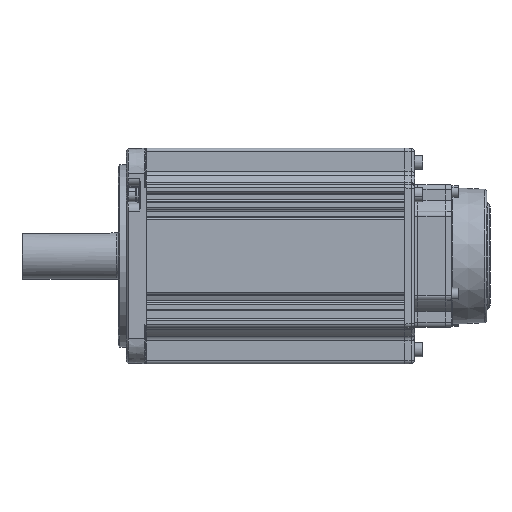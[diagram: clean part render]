
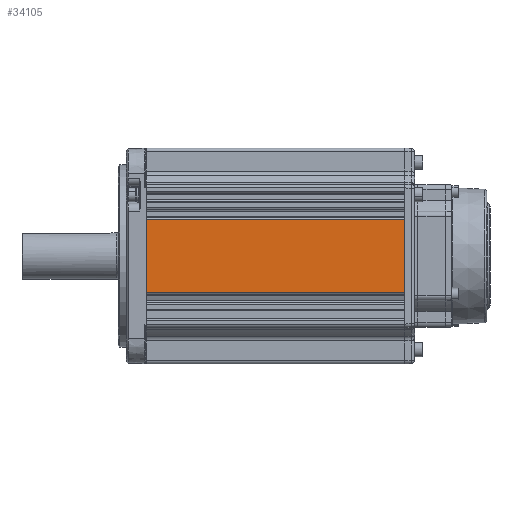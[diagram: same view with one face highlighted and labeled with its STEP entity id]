
A CAD part, front view. The second image highlights one B-rep face of the part: STEP entity #34105.
In plain terms, the highlighted planar face has unit normal (0, -1, 0).
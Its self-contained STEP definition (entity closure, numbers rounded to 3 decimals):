
#212 = ORIENTED_EDGE ( 'NONE', *, *, #33060, .F. ) ;
#1883 = VERTEX_POINT ( 'NONE', #55064 ) ;
#7166 = CARTESIAN_POINT ( 'NONE',  ( 77.9, -65., -22. ) ) ;
#7666 = AXIS2_PLACEMENT_3D ( 'NONE', #28517, #27931, #14125 ) ;
#10029 = PLANE ( 'NONE',  #7666 ) ;
#11559 = VECTOR ( 'NONE', #51038, 1000. ) ;
#14125 = DIRECTION ( 'NONE',  ( 0., 0., 1. ) ) ;
#14227 = VECTOR ( 'NONE', #55484, 1000. ) ;
#14438 = FACE_OUTER_BOUND ( 'NONE', #36784, .T. ) ;
#15333 = DIRECTION ( 'NONE',  ( -1., 0., 0. ) ) ;
#15586 = CARTESIAN_POINT ( 'NONE',  ( -77.9, -65., -43. ) ) ;
#18531 = CARTESIAN_POINT ( 'NONE',  ( -77.9, -65., 22. ) ) ;
#19382 = LINE ( 'NONE', #46633, #11559 ) ;
#19465 = LINE ( 'NONE', #55241, #47864 ) ;
#22319 = EDGE_CURVE ( 'NONE', #1883, #44146, #19465, .T. ) ;
#27931 = DIRECTION ( 'NONE',  ( 0., 1., 0. ) ) ;
#28510 = ORIENTED_EDGE ( 'NONE', *, *, #50053, .T. ) ;
#28517 = CARTESIAN_POINT ( 'NONE',  ( 78.4, -65., -43. ) ) ;
#30235 = ORIENTED_EDGE ( 'NONE', *, *, #31708, .F. ) ;
#31708 = EDGE_CURVE ( 'NONE', #1883, #48479, #49831, .T. ) ;
#32249 = VERTEX_POINT ( 'NONE', #52661 ) ;
#33060 = EDGE_CURVE ( 'NONE', #32249, #44146, #37587, .T. ) ;
#34105 = ADVANCED_FACE ( 'NONE', ( #14438 ), #10029, .F. ) ;
#35496 = DIRECTION ( 'NONE',  ( 0., 0., -1. ) ) ;
#36352 = CARTESIAN_POINT ( 'NONE',  ( 77.9, -65., -43. ) ) ;
#36784 = EDGE_LOOP ( 'NONE', ( #30235, #51238, #212, #28510 ) ) ;
#37587 = LINE ( 'NONE', #15586, #14227 ) ;
#40163 = VECTOR ( 'NONE', #35496, 1000. ) ;
#44146 = VERTEX_POINT ( 'NONE', #18531 ) ;
#46633 = CARTESIAN_POINT ( 'NONE',  ( 78.4, -65., -22. ) ) ;
#47864 = VECTOR ( 'NONE', #15333, 1000. ) ;
#48479 = VERTEX_POINT ( 'NONE', #7166 ) ;
#49831 = LINE ( 'NONE', #36352, #40163 ) ;
#50053 = EDGE_CURVE ( 'NONE', #32249, #48479, #19382, .T. ) ;
#51038 = DIRECTION ( 'NONE',  ( 1., 0., 0. ) ) ;
#51238 = ORIENTED_EDGE ( 'NONE', *, *, #22319, .T. ) ;
#52661 = CARTESIAN_POINT ( 'NONE',  ( -77.9, -65., -22. ) ) ;
#55064 = CARTESIAN_POINT ( 'NONE',  ( 77.9, -65., 22. ) ) ;
#55241 = CARTESIAN_POINT ( 'NONE',  ( 78.4, -65., 22. ) ) ;
#55484 = DIRECTION ( 'NONE',  ( 0., 0., 1. ) ) ;
